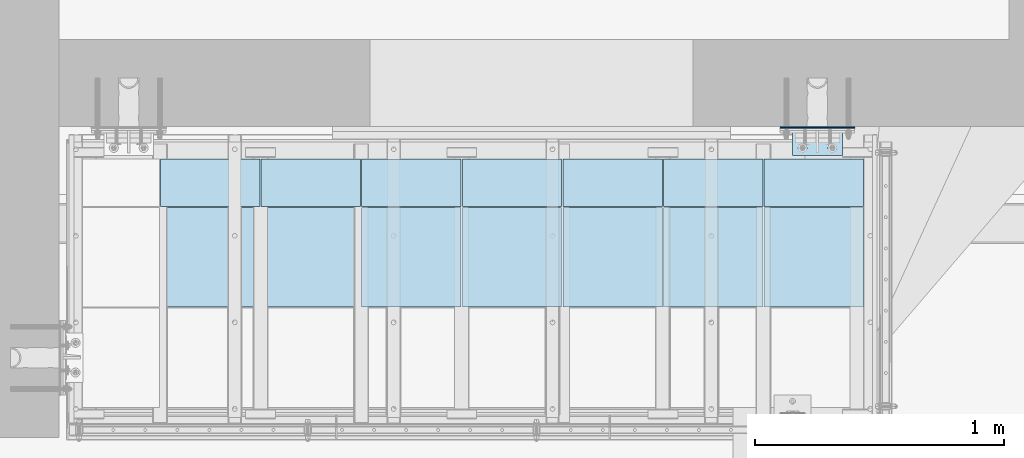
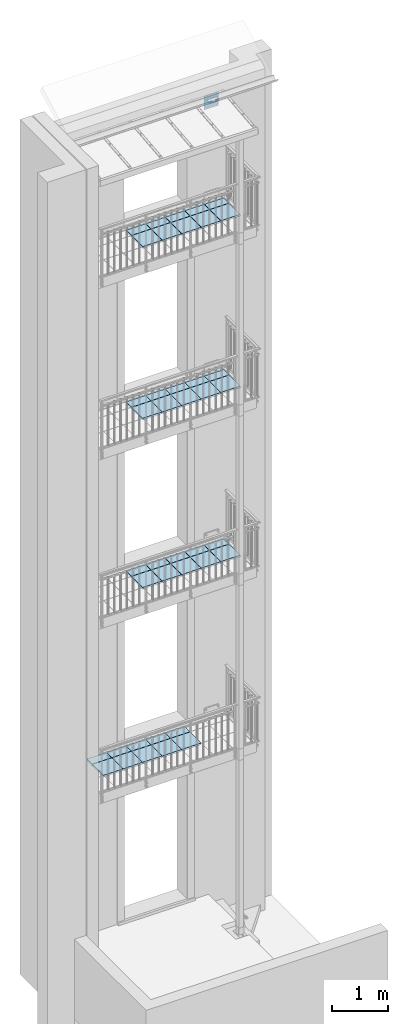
# One storey, part 64 of 162: 42 plates, 8 openings.
"""IFC2X3 building model written with IfcOpenShell, lengths in millimetres."""

from ifc_helpers import new_model, entity, si_unit, converted_unit, point, frame, frame_2d, origin, origin_with_axes, place, context, project, spatial, polyline, circle_curve, line_curve, trimmed, segment, composite_curve, circle, outline, extrude, material, layer, layer_set, element, save


model = new_model("IFC2X3")

# Units and contexts
model_context = context("Model", 3, precision=1e-09, world=origin_with_axes())
ifc_project = project(units=[si_unit("LENGTHUNIT", "METRE", prefix="MILLI"), si_unit("AREAUNIT", "SQUARE_METRE"), si_unit("VOLUMEUNIT", "CUBIC_METRE"), converted_unit("PLANEANGLEUNIT", "DEGREE", entity("IfcPlaneAngleMeasure", 0.01745329), si_unit("PLANEANGLEUNIT", "RADIAN"), dimensions=[0, 0, 0, 0, 0, 0, 0])], contexts=[model_context])

# Site, building, storey
site_placement = place(None, origin_with_axes())
site = spatial("IfcSite", under=ifc_project, at=site_placement, Name="Hermannstra?e 1a, 60318 Frankfurt", CompositionType="ELEMENT")
building_placement = place(site_placement, origin_with_axes())
building = spatial("IfcBuilding", under=site, at=building_placement, Name="Struktur 1", CompositionType="ELEMENT")
storey_placement = place(building_placement, origin_with_axes())
storey = spatial("IfcBuildingStorey", under=building, at=storey_placement, Name="Default Storey", CompositionType="ELEMENT", Elevation=0.0)

# Plates
ifc_material_1 = material(Name="BWS")
ifc_layer_1 = layer(ifc_material_1, 40.0)
ifc_layer_set_1 = layer_set([ifc_layer_1], Name="BWS")
plate_1_placement = place(None, frame((3740.30936482, 2410.109373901, 7774.0), z_axis=(0.0, 0.0, -1.0), x_axis=(1.0, 0.0, 0.0)))
element("IfcPlate", 1, at=plate_1_placement, inside=storey, material=ifc_layer_set_1, Name="-", ObjectType="-", context=model_context, shape_type="SweptSolid", body=[
    extrude(outline(polyline([(0.0, 0.0), (400.0, 0.0), (400.0, 400.0), (0.0, 400.0), (0.0, 0.0)])), origin_with_axes(), (0.0, 0.0, 1.0), 40.0),
])
plate_2_placement = place(None, frame((3740.30936482, 2814.609373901, 7774.0), z_axis=(0.0, 0.0, -1.0), x_axis=(1.0, 0.0, 0.0)))
element("IfcPlate", 2, at=plate_2_placement, inside=storey, material=ifc_layer_set_1, Name="-", ObjectType="-", context=model_context, shape_type="SweptSolid", body=[
    extrude(outline(polyline([(0.0, 209.0), (400.0, 209.0), (400.0, 400.0), (0.0, 400.0), (0.0, 209.0)])), origin_with_axes(), (0.0, 0.0, 1.0), 40.0),
])
for number, where, z_axis, x_axis in (
    (3, (4953.80936482, 2410.109373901, 7774.0), (0.0, 0.0, -1.0), (1.0, 0.0, 0.0)),
    (4, (5358.30936482, 2410.109373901, 7774.0), (0.0, 0.0, -1.0), (1.0, 0.0, 0.0)),
):
    element("IfcPlate", number, at=place(None, frame(where, z_axis=z_axis, x_axis=x_axis)), inside=storey, material=ifc_layer_set_1, Name="-", ObjectType="-", context=model_context, shape_type="SweptSolid", body=[
        extrude(outline(polyline([(0.0, 0.0), (400.0, 0.0), (400.0, 400.0), (0.0, 400.0), (0.0, 0.0)])), origin_with_axes(), (0.0, 0.0, 1.0), 40.0),
    ])
for number, where, z_axis, x_axis in (
    (5, (4953.80936482, 2814.609373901, 7774.0), (0.0, 0.0, -1.0), (1.0, 0.0, 0.0)),
    (6, (5358.30936482, 2814.609373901, 7774.0), (0.0, 0.0, -1.0), (1.0, 0.0, 0.0)),
):
    element("IfcPlate", number, at=place(None, frame(where, z_axis=z_axis, x_axis=x_axis)), inside=storey, material=ifc_layer_set_1, Name="-", ObjectType="-", context=model_context, shape_type="SweptSolid", body=[
        extrude(outline(polyline([(0.0, 209.0), (400.0, 209.0), (400.0, 400.0), (0.0, 400.0), (0.0, 209.0)])), origin_with_axes(), (0.0, 0.0, 1.0), 40.0),
    ])
plate_3_placement = place(None, frame((4549.30936482, 2410.109373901, 7774.0), z_axis=(0.0, 0.0, -1.0), x_axis=(1.0, 0.0, 0.0)))
element("IfcPlate", 7, at=plate_3_placement, inside=storey, material=ifc_layer_set_1, Name="-", ObjectType="-", context=model_context, shape_type="SweptSolid", body=[
    extrude(outline(polyline([(0.0, 0.0), (400.0, 0.0), (400.0, 400.0), (0.0, 400.0), (0.0, 0.0)])), origin_with_axes(), (0.0, 0.0, 1.0), 40.0),
])
plate_4_placement = place(None, frame((4549.30936482, 2814.609373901, 7774.0), z_axis=(0.0, 0.0, -1.0), x_axis=(1.0, 0.0, 0.0)))
element("IfcPlate", 8, at=plate_4_placement, inside=storey, material=ifc_layer_set_1, Name="-", ObjectType="-", context=model_context, shape_type="SweptSolid", body=[
    extrude(outline(polyline([(0.0, 209.0), (400.0, 209.0), (400.0, 400.0), (0.0, 400.0), (0.0, 209.0)])), origin_with_axes(), (0.0, 0.0, 1.0), 40.0),
])
plate_5_placement = place(None, frame((4144.80936482, 2410.109373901, 7774.0), z_axis=(0.0, 0.0, -1.0), x_axis=(1.0, 0.0, 0.0)))
element("IfcPlate", 9, at=plate_5_placement, inside=storey, material=ifc_layer_set_1, Name="-", ObjectType="-", context=model_context, shape_type="SweptSolid", body=[
    extrude(outline(polyline([(0.0, 0.0), (400.0, 0.0), (400.0, 400.0), (0.0, 400.0), (0.0, 0.0)])), origin_with_axes(), (0.0, 0.0, 1.0), 40.0),
])
plate_6_placement = place(None, frame((4144.80936482, 2814.609373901, 7774.0), z_axis=(0.0, 0.0, -1.0), x_axis=(1.0, 0.0, 0.0)))
element("IfcPlate", 10, at=plate_6_placement, inside=storey, material=ifc_layer_set_1, Name="-", ObjectType="-", context=model_context, shape_type="SweptSolid", body=[
    extrude(outline(polyline([(0.0, 209.0), (400.0, 209.0), (400.0, 400.0), (0.0, 400.0), (0.0, 209.0)])), origin_with_axes(), (0.0, 0.0, 1.0), 40.0),
])
for number, where, z_axis, x_axis in (
    (11, (4953.80936482, 2410.109373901, 11473.999), (0.0, 0.0, -1.0), (1.0, 0.0, 0.0)),
    (12, (5358.30936482, 2410.109373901, 11473.999), (0.0, 0.0, -1.0), (1.0, 0.0, 0.0)),
):
    element("IfcPlate", number, at=place(None, frame(where, z_axis=z_axis, x_axis=x_axis)), inside=storey, material=ifc_layer_set_1, Name="-", ObjectType="-", context=model_context, shape_type="SweptSolid", body=[
        extrude(outline(polyline([(0.0, 0.0), (400.0, 0.0), (400.0, 400.0), (0.0, 400.0), (0.0, 0.0)])), origin_with_axes(), (0.0, 0.0, 1.0), 40.0),
    ])
for number, where, z_axis, x_axis in (
    (13, (4953.80936482, 2814.609373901, 11473.999), (0.0, 0.0, -1.0), (1.0, 0.0, 0.0)),
    (14, (5358.30936482, 2814.609373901, 11473.999), (0.0, 0.0, -1.0), (1.0, 0.0, 0.0)),
):
    element("IfcPlate", number, at=place(None, frame(where, z_axis=z_axis, x_axis=x_axis)), inside=storey, material=ifc_layer_set_1, Name="-", ObjectType="-", context=model_context, shape_type="SweptSolid", body=[
        extrude(outline(polyline([(0.0, 209.0), (400.0, 209.0), (400.0, 400.0), (0.0, 400.0), (0.0, 209.0)])), origin_with_axes(), (0.0, 0.0, 1.0), 40.0),
    ])
plate_7_placement = place(None, frame((4549.30936482, 2410.109373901, 11473.999), z_axis=(0.0, 0.0, -1.0), x_axis=(1.0, 0.0, 0.0)))
element("IfcPlate", 15, at=plate_7_placement, inside=storey, material=ifc_layer_set_1, Name="-", ObjectType="-", context=model_context, shape_type="SweptSolid", body=[
    extrude(outline(polyline([(0.0, 0.0), (400.0, 0.0), (400.0, 400.0), (0.0, 400.0), (0.0, 0.0)])), origin_with_axes(), (0.0, 0.0, 1.0), 40.0),
])
plate_8_placement = place(None, frame((4549.30936482, 2814.609373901, 11473.999), z_axis=(0.0, 0.0, -1.0), x_axis=(1.0, 0.0, 0.0)))
element("IfcPlate", 16, at=plate_8_placement, inside=storey, material=ifc_layer_set_1, Name="-", ObjectType="-", context=model_context, shape_type="SweptSolid", body=[
    extrude(outline(polyline([(0.0, 209.0), (400.0, 209.0), (400.0, 400.0), (0.0, 400.0), (0.0, 209.0)])), origin_with_axes(), (0.0, 0.0, 1.0), 40.0),
])
plate_9_placement = place(None, frame((4144.80936482, 2410.109373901, 11473.999), z_axis=(0.0, 0.0, -1.0), x_axis=(1.0, 0.0, 0.0)))
element("IfcPlate", 17, at=plate_9_placement, inside=storey, material=ifc_layer_set_1, Name="-", ObjectType="-", context=model_context, shape_type="SweptSolid", body=[
    extrude(outline(polyline([(0.0, 0.0), (400.0, 0.0), (400.0, 400.0), (0.0, 400.0), (0.0, 0.0)])), origin_with_axes(), (0.0, 0.0, 1.0), 40.0),
])
plate_10_placement = place(None, frame((4144.80936482, 2814.609373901, 11473.999), z_axis=(0.0, 0.0, -1.0), x_axis=(1.0, 0.0, 0.0)))
element("IfcPlate", 18, at=plate_10_placement, inside=storey, material=ifc_layer_set_1, Name="-", ObjectType="-", context=model_context, shape_type="SweptSolid", body=[
    extrude(outline(polyline([(0.0, 209.0), (400.0, 209.0), (400.0, 400.0), (0.0, 400.0), (0.0, 209.0)])), origin_with_axes(), (0.0, 0.0, 1.0), 40.0),
])
plate_11_placement = place(None, frame((3740.30936482, 2410.109373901, 11473.999), z_axis=(0.0, 0.0, -1.0), x_axis=(1.0, 0.0, 0.0)))
element("IfcPlate", 19, at=plate_11_placement, inside=storey, material=ifc_layer_set_1, Name="-", ObjectType="-", context=model_context, shape_type="SweptSolid", body=[
    extrude(outline(polyline([(0.0, 0.0), (400.0, 0.0), (400.0, 400.0), (0.0, 400.0), (0.0, 0.0)])), origin_with_axes(), (0.0, 0.0, 1.0), 40.0),
])
plate_12_placement = place(None, frame((3740.30936482, 2814.609373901, 11473.999), z_axis=(0.0, 0.0, -1.0), x_axis=(1.0, 0.0, 0.0)))
element("IfcPlate", 20, at=plate_12_placement, inside=storey, material=ifc_layer_set_1, Name="-", ObjectType="-", context=model_context, shape_type="SweptSolid", body=[
    extrude(outline(polyline([(0.0, 209.0), (400.0, 209.0), (400.0, 400.0), (0.0, 400.0), (0.0, 209.0)])), origin_with_axes(), (0.0, 0.0, 1.0), 40.0),
])
for number, where, z_axis, x_axis in (
    (21, (4953.80936482, 2410.109373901, 15230.999), (0.0, 0.0, -1.0), (1.0, 0.0, 0.0)),
    (22, (5358.30936482, 2410.109373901, 15230.999), (0.0, 0.0, -1.0), (1.0, 0.0, 0.0)),
):
    element("IfcPlate", number, at=place(None, frame(where, z_axis=z_axis, x_axis=x_axis)), inside=storey, material=ifc_layer_set_1, Name="-", ObjectType="-", context=model_context, shape_type="SweptSolid", body=[
        extrude(outline(polyline([(0.0, 0.0), (400.0, 0.0), (400.0, 400.0), (0.0, 400.0), (0.0, 0.0)])), origin_with_axes(), (0.0, 0.0, 1.0), 40.0),
    ])
for number, where, z_axis, x_axis in (
    (23, (4953.80936482, 2814.609373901, 15230.999), (0.0, 0.0, -1.0), (1.0, 0.0, 0.0)),
    (24, (5358.30936482, 2814.609373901, 15230.999), (0.0, 0.0, -1.0), (1.0, 0.0, 0.0)),
):
    element("IfcPlate", number, at=place(None, frame(where, z_axis=z_axis, x_axis=x_axis)), inside=storey, material=ifc_layer_set_1, Name="-", ObjectType="-", context=model_context, shape_type="SweptSolid", body=[
        extrude(outline(polyline([(0.0, 209.0), (400.0, 209.0), (400.0, 400.0), (0.0, 400.0), (0.0, 209.0)])), origin_with_axes(), (0.0, 0.0, 1.0), 40.0),
    ])
plate_13_placement = place(None, frame((4549.30936482, 2410.109373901, 15230.999), z_axis=(0.0, 0.0, -1.0), x_axis=(1.0, 0.0, 0.0)))
element("IfcPlate", 25, at=plate_13_placement, inside=storey, material=ifc_layer_set_1, Name="-", ObjectType="-", context=model_context, shape_type="SweptSolid", body=[
    extrude(outline(polyline([(0.0, 0.0), (400.0, 0.0), (400.0, 400.0), (0.0, 400.0), (0.0, 0.0)])), origin_with_axes(), (0.0, 0.0, 1.0), 40.0),
])
plate_14_placement = place(None, frame((4549.30936482, 2814.609373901, 15230.999), z_axis=(0.0, 0.0, -1.0), x_axis=(1.0, 0.0, 0.0)))
element("IfcPlate", 26, at=plate_14_placement, inside=storey, material=ifc_layer_set_1, Name="-", ObjectType="-", context=model_context, shape_type="SweptSolid", body=[
    extrude(outline(polyline([(0.0, 209.0), (400.0, 209.0), (400.0, 400.0), (0.0, 400.0), (0.0, 209.0)])), origin_with_axes(), (0.0, 0.0, 1.0), 40.0),
])
plate_15_placement = place(None, frame((4144.80936482, 2410.109373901, 15230.999), z_axis=(0.0, 0.0, -1.0), x_axis=(1.0, 0.0, 0.0)))
element("IfcPlate", 27, at=plate_15_placement, inside=storey, material=ifc_layer_set_1, Name="-", ObjectType="-", context=model_context, shape_type="SweptSolid", body=[
    extrude(outline(polyline([(0.0, 0.0), (400.0, 0.0), (400.0, 400.0), (0.0, 400.0), (0.0, 0.0)])), origin_with_axes(), (0.0, 0.0, 1.0), 40.0),
])
plate_16_placement = place(None, frame((4144.80936482, 2814.609373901, 15230.999), z_axis=(0.0, 0.0, -1.0), x_axis=(1.0, 0.0, 0.0)))
element("IfcPlate", 28, at=plate_16_placement, inside=storey, material=ifc_layer_set_1, Name="-", ObjectType="-", context=model_context, shape_type="SweptSolid", body=[
    extrude(outline(polyline([(0.0, 209.0), (400.0, 209.0), (400.0, 400.0), (0.0, 400.0), (0.0, 209.0)])), origin_with_axes(), (0.0, 0.0, 1.0), 40.0),
])
plate_17_placement = place(None, frame((3740.30936482, 2410.109373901, 15230.999), z_axis=(0.0, 0.0, -1.0), x_axis=(1.0, 0.0, 0.0)))
element("IfcPlate", 29, at=plate_17_placement, inside=storey, material=ifc_layer_set_1, Name="-", ObjectType="-", context=model_context, shape_type="SweptSolid", body=[
    extrude(outline(polyline([(0.0, 0.0), (400.0, 0.0), (400.0, 400.0), (0.0, 400.0), (0.0, 0.0)])), origin_with_axes(), (0.0, 0.0, 1.0), 40.0),
])
plate_18_placement = place(None, frame((3740.30936482, 2814.609373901, 15230.999), z_axis=(0.0, 0.0, -1.0), x_axis=(1.0, 0.0, 0.0)))
element("IfcPlate", 30, at=plate_18_placement, inside=storey, material=ifc_layer_set_1, Name="-", ObjectType="-", context=model_context, shape_type="SweptSolid", body=[
    extrude(outline(polyline([(0.0, 209.0), (400.0, 209.0), (400.0, 400.0), (0.0, 400.0), (0.0, 209.0)])), origin_with_axes(), (0.0, 0.0, 1.0), 40.0),
])

# Plate, openings
ifc_material_2 = material(Name="Thermostop")
ifc_layer_2 = layer(ifc_material_2, 6.0)
ifc_layer_set_2 = layer_set([ifc_layer_2], Name="Thermostop")
plate_19_placement = place(None, frame((5573.309364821, 2735.609373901, 17341.999), z_axis=(0.0, 1.0, 0.0), x_axis=(-1.0, 0.0, 0.0)))
plate_19 = element("IfcPlate", 31, at=plate_19_placement, inside=storey, material=ifc_layer_set_2, Name="-", ObjectType="-", context=model_context, shape_type="SweptSolid", body=[
    extrude(outline(polyline([(-150.0, -150.0), (150.0, -150.0), (150.0, 150.0), (-150.0, 150.0), (-150.0, -150.0)])), origin_with_axes(), (0.0, 0.0, -1.0), 6.0),
])
opening_1_placement = place(plate_19_placement, frame((114.999, 125.0, 0.5), z_axis=(0.0, 0.0, 1.0), x_axis=(1.0, 0.0, 0.0)))
element("IfcOpeningElement", 32, at=opening_1_placement, cuts=plate_19, ObjectType="Opening", context=model_context, shape_type="SweptSolid", body=[
    extrude(circle(Radius=10.001, at=frame_2d((10.001, 0.0), x_axis=(1.0, 0.0))), origin(), (0.0, 0.0, -1.0), 7.0),
])
opening_2_placement = place(plate_19_placement, frame((-135.001, 125.0, 0.5), z_axis=(0.0, 0.0, 1.0), x_axis=(1.0, 0.0, 0.0)))
element("IfcOpeningElement", 33, at=opening_2_placement, cuts=plate_19, ObjectType="Opening", context=model_context, shape_type="SweptSolid", body=[
    extrude(circle(Radius=10.001, at=frame_2d((10.001, 0.0), x_axis=(1.0, 0.0))), origin(), (0.0, 0.0, -1.0), 7.0),
])
opening_3_placement = place(plate_19_placement, frame((114.999, -125.0, 0.5), z_axis=(0.0, 0.0, 1.0), x_axis=(1.0, 0.0, 0.0)))
element("IfcOpeningElement", 34, at=opening_3_placement, cuts=plate_19, ObjectType="Opening", context=model_context, shape_type="SweptSolid", body=[
    extrude(circle(Radius=10.001, at=frame_2d((10.001, 0.0), x_axis=(1.0, 0.0))), origin(), (0.0, 0.0, -1.0), 7.0),
])
opening_4_placement = place(plate_19_placement, frame((-135.001, -125.0, 0.5), z_axis=(0.0, 0.0, 1.0), x_axis=(1.0, 0.0, 0.0)))
element("IfcOpeningElement", 35, at=opening_4_placement, cuts=plate_19, ObjectType="Opening", context=model_context, shape_type="SweptSolid", body=[
    extrude(circle(Radius=10.001, at=frame_2d((10.001, 0.0), x_axis=(1.0, 0.0))), origin(), (0.0, 0.0, -1.0), 7.0),
])

ifc_material_3 = material(Name="S235JR")
ifc_layer_3 = layer(ifc_material_3, 10.0)
ifc_layer_set_3 = layer_set([ifc_layer_3], Name="S235JR")
plate_20_placement = place(None, frame((5573.309364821, 2669.883279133, 17390.856674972), z_axis=(0.0, 0.104528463, -0.994521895), x_axis=(-1.0, 0.0, 0.0)))
plate_20 = element("IfcPlate", 36, at=plate_20_placement, inside=storey, material=ifc_layer_set_3, Name="-", ObjectType="-", context=model_context, shape_type="SweptSolid", body=[
    extrude(outline(polyline([(-100.0, -50.0), (100.0, -50.0), (100.0, 50.0), (-100.0, 50.0), (-100.0, -50.0)])), origin_with_axes(), (0.0, 0.0, -1.0), 10.0),
])
opening_5_placement = place(plate_20_placement, frame((52.499, -20.0, 0.5), z_axis=(0.0, 0.0, 1.0), x_axis=(1.0, 0.0, 0.0)))
element("IfcOpeningElement", 37, at=opening_5_placement, cuts=plate_20, ObjectType="Opening", context=model_context, shape_type="SweptSolid", body=[
    extrude(circle(Radius=7.501, at=frame_2d((7.501, 0.0), x_axis=(1.0, 0.0))), origin(), (0.0, 0.0, -1.0), 11.0),
])
opening_6_placement = place(plate_20_placement, frame((-67.501, -20.0, 0.5), z_axis=(0.0, 0.0, 1.0), x_axis=(1.0, 0.0, 0.0)))
element("IfcOpeningElement", 38, at=opening_6_placement, cuts=plate_20, ObjectType="Opening", context=model_context, shape_type="SweptSolid", body=[
    extrude(circle(Radius=7.501, at=frame_2d((7.501, 0.0), x_axis=(1.0, 0.0))), origin(), (0.0, 0.0, -1.0), 11.0),
])
opening_7_placement = place(plate_20_placement, frame((50.5, -28.001, 0.5), z_axis=(0.0, 0.0, 1.0), x_axis=(1.0, 0.0, 0.0)))
element("IfcOpeningElement", 39, at=opening_7_placement, cuts=plate_20, ObjectType="Opening", context=model_context, shape_type="SweptSolid", body=[
    extrude(outline(composite_curve([segment(trimmed(line_curve((0.0, 0.0), (1.0, 0.0), 19.0), [point((0.0, 0.0))], [point((19.0, 0.0))], True, "CARTESIAN"), True, "CONTINUOUS"), segment(trimmed(circle_curve(frame_2d((19.0, 8.001), x_axis=(1.0, 0.0)), 8.001), [point((19.0, 0.0))], [point((19.0, 16.002))], True, "CARTESIAN"), True, "CONTINUOUS"), segment(trimmed(line_curve((19.0, 16.002), (-1.0, 0.0), 19.0), [point((19.0, 16.002))], [point((0.0, 16.002))], True, "CARTESIAN"), True, "CONTINUOUS"), segment(trimmed(circle_curve(frame_2d((0.0, 8.001), x_axis=(1.0, 0.0)), 8.001), [point((0.0, 16.002))], [point((0.0, 0.0))], True, "CARTESIAN"), True, "CONTINUOUS")], self_intersect=False)), origin(), (0.0, 0.0, -1.0), 11.0),
])
opening_8_placement = place(plate_20_placement, frame((-69.5, -28.001, 0.5), z_axis=(0.0, 0.0, 1.0), x_axis=(1.0, 0.0, 0.0)))
element("IfcOpeningElement", 40, at=opening_8_placement, cuts=plate_20, ObjectType="Opening", context=model_context, shape_type="SweptSolid", body=[
    extrude(outline(composite_curve([segment(trimmed(line_curve((0.0, 0.0), (1.0, 0.0), 19.0), [point((0.0, 0.0))], [point((19.0, 0.0))], True, "CARTESIAN"), True, "CONTINUOUS"), segment(trimmed(circle_curve(frame_2d((19.0, 8.001), x_axis=(1.0, 0.0)), 8.001), [point((19.0, 0.0))], [point((19.0, 16.002))], True, "CARTESIAN"), True, "CONTINUOUS"), segment(trimmed(line_curve((19.0, 16.002), (-1.0, 0.0), 19.0), [point((19.0, 16.002))], [point((0.0, 16.002))], True, "CARTESIAN"), True, "CONTINUOUS"), segment(trimmed(circle_curve(frame_2d((0.0, 8.001), x_axis=(1.0, 0.0)), 8.001), [point((0.0, 16.002))], [point((0.0, 0.0))], True, "CARTESIAN"), True, "CONTINUOUS")], self_intersect=False)), origin(), (0.0, 0.0, -1.0), 11.0),
])

# Plates
plate_21_placement = place(None, frame((4549.30936482, 2814.609373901, 3949.0), z_axis=(0.0, 0.0, -1.0), x_axis=(1.0, 0.0, 0.0)))
element("IfcPlate", 41, at=plate_21_placement, inside=storey, material=ifc_layer_set_1, Name="-", ObjectType="-", context=model_context, shape_type="SweptSolid", body=[
    extrude(outline(polyline([(0.0, 209.0), (400.0, 209.0), (400.0, 400.0), (0.0, 400.0), (0.0, 209.0)])), origin_with_axes(), (0.0, 0.0, 1.0), 40.0),
])
for number, where, z_axis, x_axis in (
    (42, (4549.30936482, 2410.109373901, 3949.0), (0.0, 0.0, -1.0), (1.0, 0.0, 0.0)),
    (43, (4144.80936482, 2410.109373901, 3949.0), (0.0, 0.0, -1.0), (1.0, 0.0, 0.0)),
):
    element("IfcPlate", number, at=place(None, frame(where, z_axis=z_axis, x_axis=x_axis)), inside=storey, material=ifc_layer_set_1, Name="-", ObjectType="-", context=model_context, shape_type="SweptSolid", body=[
        extrude(outline(polyline([(0.0, 0.0), (400.0, 0.0), (400.0, 400.0), (0.0, 400.0), (0.0, 0.0)])), origin_with_axes(), (0.0, 0.0, 1.0), 40.0),
    ])
plate_22_placement = place(None, frame((4144.80936482, 2814.609373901, 3949.0), z_axis=(0.0, 0.0, -1.0), x_axis=(1.0, 0.0, 0.0)))
element("IfcPlate", 44, at=plate_22_placement, inside=storey, material=ifc_layer_set_1, Name="-", ObjectType="-", context=model_context, shape_type="SweptSolid", body=[
    extrude(outline(polyline([(0.0, 209.0), (400.0, 209.0), (400.0, 400.0), (0.0, 400.0), (0.0, 209.0)])), origin_with_axes(), (0.0, 0.0, 1.0), 40.0),
])
plate_23_placement = place(None, frame((3740.30936482, 2410.109373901, 3949.0), z_axis=(0.0, 0.0, -1.0), x_axis=(1.0, 0.0, 0.0)))
element("IfcPlate", 45, at=plate_23_placement, inside=storey, material=ifc_layer_set_1, Name="-", ObjectType="-", context=model_context, shape_type="SweptSolid", body=[
    extrude(outline(polyline([(0.0, 0.0), (400.0, 0.0), (400.0, 400.0), (0.0, 400.0), (0.0, 0.0)])), origin_with_axes(), (0.0, 0.0, 1.0), 40.0),
])
plate_24_placement = place(None, frame((3740.30936482, 2814.609373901, 3949.0), z_axis=(0.0, 0.0, -1.0), x_axis=(1.0, 0.0, 0.0)))
element("IfcPlate", 46, at=plate_24_placement, inside=storey, material=ifc_layer_set_1, Name="-", ObjectType="-", context=model_context, shape_type="SweptSolid", body=[
    extrude(outline(polyline([(0.0, 209.0), (400.0, 209.0), (400.0, 400.0), (0.0, 400.0), (0.0, 209.0)])), origin_with_axes(), (0.0, 0.0, 1.0), 40.0),
])
plate_25_placement = place(None, frame((3335.80936482, 2410.109373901, 3949.0), z_axis=(0.0, 0.0, -1.0), x_axis=(1.0, 0.0, 0.0)))
element("IfcPlate", 47, at=plate_25_placement, inside=storey, material=ifc_layer_set_1, Name="-", ObjectType="-", context=model_context, shape_type="SweptSolid", body=[
    extrude(outline(polyline([(0.0, 0.0), (400.0, 0.0), (400.0, 400.0), (0.0, 400.0), (0.0, 0.0)])), origin_with_axes(), (0.0, 0.0, 1.0), 40.0),
])
plate_26_placement = place(None, frame((3335.80936482, 2814.609373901, 3949.0), z_axis=(0.0, 0.0, -1.0), x_axis=(1.0, 0.0, 0.0)))
element("IfcPlate", 48, at=plate_26_placement, inside=storey, material=ifc_layer_set_1, Name="-", ObjectType="-", context=model_context, shape_type="SweptSolid", body=[
    extrude(outline(polyline([(0.0, 209.0), (400.0, 209.0), (400.0, 400.0), (0.0, 400.0), (0.0, 209.0)])), origin_with_axes(), (0.0, 0.0, 1.0), 40.0),
])
plate_27_placement = place(None, frame((2931.30936482, 2410.109373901, 3949.0), z_axis=(0.0, 0.0, -1.0), x_axis=(1.0, 0.0, 0.0)))
element("IfcPlate", 49, at=plate_27_placement, inside=storey, material=ifc_layer_set_1, Name="-", ObjectType="-", context=model_context, shape_type="SweptSolid", body=[
    extrude(outline(polyline([(0.0, 0.0), (400.0, 0.0), (400.0, 400.0), (0.0, 400.0), (0.0, 0.0)])), origin_with_axes(), (0.0, 0.0, 1.0), 40.0),
])
plate_28_placement = place(None, frame((2931.30936482, 2814.609373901, 3949.0), z_axis=(0.0, 0.0, -1.0), x_axis=(1.0, 0.0, 0.0)))
element("IfcPlate", 50, at=plate_28_placement, inside=storey, material=ifc_layer_set_1, Name="-", ObjectType="-", context=model_context, shape_type="SweptSolid", body=[
    extrude(outline(polyline([(0.0, 209.0), (400.0, 209.0), (400.0, 400.0), (0.0, 400.0), (0.0, 209.0)])), origin_with_axes(), (0.0, 0.0, 1.0), 40.0),
])

save(model, "model.ifc")
